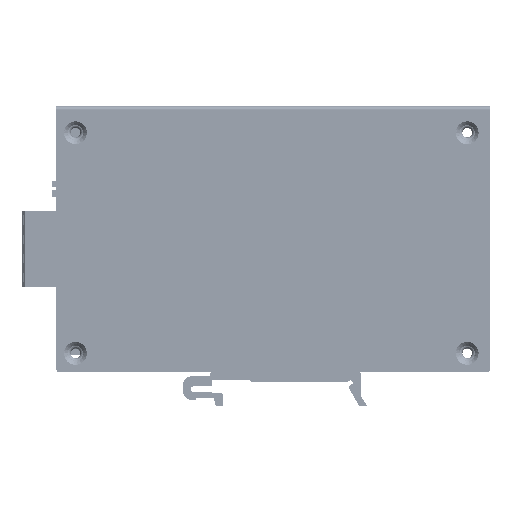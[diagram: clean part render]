
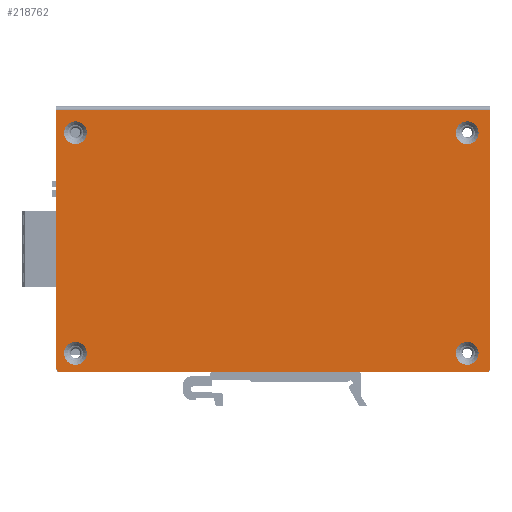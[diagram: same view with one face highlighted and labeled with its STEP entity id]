
A CAD part, left-side view. The second image highlights one B-rep face of the part: STEP entity #218762.
In plain terms, the highlighted planar face has unit normal (-1, 0, 0).
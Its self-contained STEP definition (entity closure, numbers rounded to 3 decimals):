
#212664=DIRECTION('',(0.,1.,0.));
#212665=VECTOR('',#212664,114.);
#212666=CARTESIAN_POINT('',(-25.15,-57.5,-1.));
#212667=LINE('',#212666,#212665);
#212677=DIRECTION('',(0.,0.,1.));
#212678=VECTOR('',#212677,68.);
#212679=CARTESIAN_POINT('',(-25.15,-57.5,-69.));
#212680=LINE('',#212679,#212678);
#214409=CARTESIAN_POINT('',(-25.15,55.5,-69.));
#214410=DIRECTION('',(1.,0.,0.));
#214411=DIRECTION('',(0.,0.,-1.));
#214412=AXIS2_PLACEMENT_3D('',#214409,#214410,#214411);
#214414=DIRECTION('',(0.,0.,1.));
#214415=VECTOR('',#214414,68.);
#214416=CARTESIAN_POINT('',(-25.15,56.5,-69.));
#214417=LINE('',#214416,#214415);
#214418=CARTESIAN_POINT('',(-25.15,-56.5,-69.));
#214419=DIRECTION('',(1.,0.,0.));
#214420=DIRECTION('',(0.,-1.,0.));
#214421=AXIS2_PLACEMENT_3D('',#214418,#214419,#214420);
#214423=CARTESIAN_POINT('',(-25.15,51.5,-7.));
#214424=DIRECTION('',(-1.,0.,0.));
#214425=DIRECTION('',(0.,1.,0.));
#214426=AXIS2_PLACEMENT_3D('',#214423,#214424,#214425);
#214428=CARTESIAN_POINT('',(-25.15,51.5,-7.));
#214429=DIRECTION('',(-1.,0.,0.));
#214430=DIRECTION('',(0.,-1.,0.));
#214431=AXIS2_PLACEMENT_3D('',#214428,#214429,#214430);
#214433=CARTESIAN_POINT('',(-25.15,-51.5,-65.));
#214434=DIRECTION('',(-1.,0.,0.));
#214435=DIRECTION('',(0.,1.,0.));
#214436=AXIS2_PLACEMENT_3D('',#214433,#214434,#214435);
#214438=CARTESIAN_POINT('',(-25.15,-51.5,-65.));
#214439=DIRECTION('',(-1.,0.,0.));
#214440=DIRECTION('',(0.,-1.,0.));
#214441=AXIS2_PLACEMENT_3D('',#214438,#214439,#214440);
#214443=CARTESIAN_POINT('',(-25.15,-51.5,-7.));
#214444=DIRECTION('',(-1.,0.,0.));
#214445=DIRECTION('',(0.,1.,0.));
#214446=AXIS2_PLACEMENT_3D('',#214443,#214444,#214445);
#214448=CARTESIAN_POINT('',(-25.15,-51.5,-7.));
#214449=DIRECTION('',(-1.,0.,0.));
#214450=DIRECTION('',(0.,-1.,0.));
#214451=AXIS2_PLACEMENT_3D('',#214448,#214449,#214450);
#214453=CARTESIAN_POINT('',(-25.15,51.5,-65.));
#214454=DIRECTION('',(-1.,0.,0.));
#214455=DIRECTION('',(0.,1.,0.));
#214456=AXIS2_PLACEMENT_3D('',#214453,#214454,#214455);
#214458=CARTESIAN_POINT('',(-25.15,51.5,-65.));
#214459=DIRECTION('',(-1.,0.,0.));
#214460=DIRECTION('',(0.,-1.,0.));
#214461=AXIS2_PLACEMENT_3D('',#214458,#214459,#214460);
#214463=DIRECTION('',(0.,-1.,0.));
#214464=VECTOR('',#214463,112.);
#214465=CARTESIAN_POINT('',(-25.15,55.5,-70.));
#214466=LINE('',#214465,#214464);
#214887=CARTESIAN_POINT('',(-25.15,-57.5,-1.));
#214888=VERTEX_POINT('',#214887);
#214889=CARTESIAN_POINT('',(-25.15,-57.5,-69.));
#214891=VERTEX_POINT('',#214889);
#214895=CARTESIAN_POINT('',(-25.15,-56.5,-70.));
#214896=VERTEX_POINT('',#214895);
#214917=CARTESIAN_POINT('',(-25.15,48.5,-65.));
#214918=VERTEX_POINT('',#214917);
#214919=CARTESIAN_POINT('',(-25.15,54.5,-65.));
#214920=VERTEX_POINT('',#214919);
#214921=CARTESIAN_POINT('',(-25.15,55.5,-70.));
#214922=CARTESIAN_POINT('',(-25.15,56.5,-69.));
#214923=VERTEX_POINT('',#214921);
#214924=VERTEX_POINT('',#214922);
#214925=CARTESIAN_POINT('',(-25.15,56.5,-1.));
#214926=VERTEX_POINT('',#214925);
#214927=CARTESIAN_POINT('',(-25.15,54.5,-7.));
#214928=CARTESIAN_POINT('',(-25.15,48.5,-7.));
#214929=VERTEX_POINT('',#214927);
#214930=VERTEX_POINT('',#214928);
#214931=CARTESIAN_POINT('',(-25.15,-48.5,-65.));
#214932=CARTESIAN_POINT('',(-25.15,-54.5,-65.));
#214933=VERTEX_POINT('',#214931);
#214934=VERTEX_POINT('',#214932);
#214935=CARTESIAN_POINT('',(-25.15,-48.5,-7.));
#214936=CARTESIAN_POINT('',(-25.15,-54.5,-7.));
#214937=VERTEX_POINT('',#214935);
#214938=VERTEX_POINT('',#214936);
#218724=CARTESIAN_POINT('',(-25.15,-57.5,-1.));
#218725=DIRECTION('',(1.,0.,0.));
#218726=DIRECTION('',(0.,-1.,0.));
#218727=AXIS2_PLACEMENT_3D('',#218724,#218725,#218726);
#218728=PLANE('',#218727);
#218729=ORIENTED_EDGE('',*,*,#218708,.T.);
#218730=ORIENTED_EDGE('',*,*,#218691,.T.);
#218731=ORIENTED_EDGE('',*,*,#215143,.F.);
#218732=ORIENTED_EDGE('',*,*,#215182,.F.);
#218733=ORIENTED_EDGE('',*,*,#215206,.T.);
#218735=ORIENTED_EDGE('',*,*,#218734,.F.);
#218736=EDGE_LOOP('',(#218729,#218730,#218731,#218732,#218733,#218735));
#218737=FACE_OUTER_BOUND('',#218736,.F.);
#218739=ORIENTED_EDGE('',*,*,#218738,.T.);
#218741=ORIENTED_EDGE('',*,*,#218740,.T.);
#218742=EDGE_LOOP('',(#218739,#218741));
#218743=FACE_BOUND('',#218742,.F.);
#218745=ORIENTED_EDGE('',*,*,#218744,.T.);
#218747=ORIENTED_EDGE('',*,*,#218746,.T.);
#218748=EDGE_LOOP('',(#218745,#218747));
#218749=FACE_BOUND('',#218748,.F.);
#218751=ORIENTED_EDGE('',*,*,#218750,.T.);
#218753=ORIENTED_EDGE('',*,*,#218752,.T.);
#218754=EDGE_LOOP('',(#218751,#218753));
#218755=FACE_BOUND('',#218754,.F.);
#218757=ORIENTED_EDGE('',*,*,#218756,.T.);
#218759=ORIENTED_EDGE('',*,*,#218758,.T.);
#218760=EDGE_LOOP('',(#218757,#218759));
#218761=FACE_BOUND('',#218760,.F.);
#214413=CIRCLE('',#214412,1.);
#214422=CIRCLE('',#214421,1.);
#214427=CIRCLE('',#214426,3.);
#214432=CIRCLE('',#214431,3.);
#214437=CIRCLE('',#214436,3.);
#214442=CIRCLE('',#214441,3.);
#214447=CIRCLE('',#214446,3.);
#214452=CIRCLE('',#214451,3.);
#214457=CIRCLE('',#214456,3.);
#214462=CIRCLE('',#214461,3.);
#215143=EDGE_CURVE('',#214888,#214926,#212667,.T.);
#215182=EDGE_CURVE('',#214891,#214888,#212680,.T.);
#215206=EDGE_CURVE('',#214891,#214896,#214422,.T.);
#218691=EDGE_CURVE('',#214924,#214926,#214417,.T.);
#218708=EDGE_CURVE('',#214923,#214924,#214413,.T.);
#218734=EDGE_CURVE('',#214923,#214896,#214466,.T.);
#218738=EDGE_CURVE('',#214929,#214930,#214427,.T.);
#218740=EDGE_CURVE('',#214930,#214929,#214432,.T.);
#218744=EDGE_CURVE('',#214933,#214934,#214437,.T.);
#218746=EDGE_CURVE('',#214934,#214933,#214442,.T.);
#218750=EDGE_CURVE('',#214937,#214938,#214447,.T.);
#218752=EDGE_CURVE('',#214938,#214937,#214452,.T.);
#218756=EDGE_CURVE('',#214920,#214918,#214457,.T.);
#218758=EDGE_CURVE('',#214918,#214920,#214462,.T.);
#218762=ADVANCED_FACE('',(#218737,#218743,#218749,#218755,#218761),#218728,.F.);
